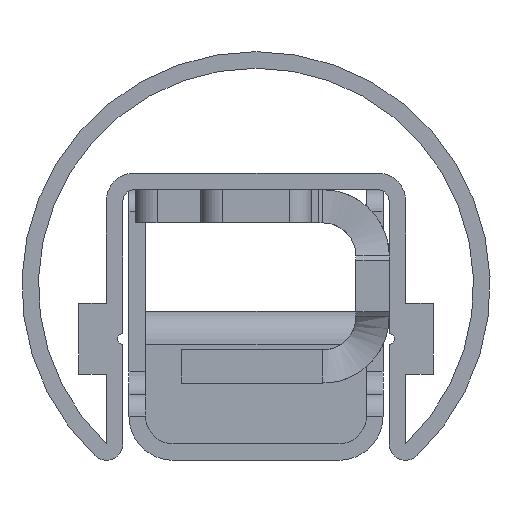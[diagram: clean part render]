
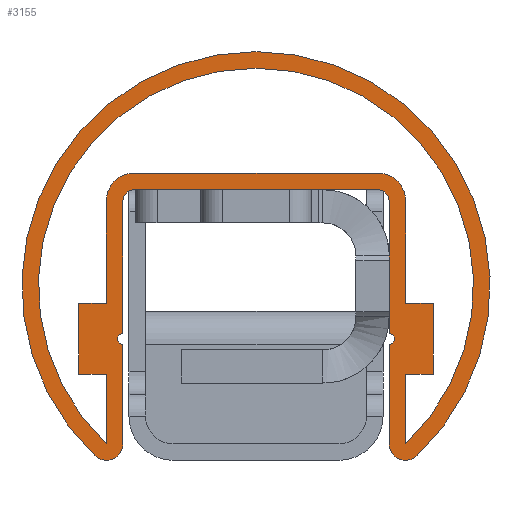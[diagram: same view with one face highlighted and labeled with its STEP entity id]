
A CAD part, front view. The second image highlights one B-rep face of the part: STEP entity #3155.
In plain terms, the highlighted planar face has unit normal (0, -1, 0).
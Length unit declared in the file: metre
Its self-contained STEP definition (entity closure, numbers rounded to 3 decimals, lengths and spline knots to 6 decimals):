
#116=PLANE('',#3397);
#258=LINE('',#5466,#560);
#262=LINE('',#5475,#564);
#265=LINE('',#5486,#567);
#268=LINE('',#5492,#570);
#275=LINE('',#5511,#577);
#277=LINE('',#5519,#579);
#280=LINE('',#5525,#582);
#288=LINE('',#5547,#590);
#292=LINE('',#5559,#594);
#296=LINE('',#5571,#598);
#297=LINE('',#5579,#599);
#298=LINE('',#5581,#600);
#299=LINE('',#5583,#601);
#300=LINE('',#5585,#602);
#301=LINE('',#5586,#603);
#302=LINE('',#5588,#604);
#560=VECTOR('',#3836,1.);
#564=VECTOR('',#3842,1.);
#567=VECTOR('',#3853,1.);
#570=VECTOR('',#3858,1.);
#577=VECTOR('',#3873,1.);
#579=VECTOR('',#3883,1.);
#582=VECTOR('',#3888,1.);
#590=VECTOR('',#3904,1.);
#594=VECTOR('',#3916,1.);
#598=VECTOR('',#3928,1.);
#599=VECTOR('',#3943,1.);
#600=VECTOR('',#3944,1.);
#601=VECTOR('',#3945,1.);
#602=VECTOR('',#3946,1.);
#603=VECTOR('',#3947,1.);
#604=VECTOR('',#3948,1.);
#1085=ORIENTED_EDGE('',*,*,#1867,.F.);
#1086=ORIENTED_EDGE('',*,*,#1812,.T.);
#1087=ORIENTED_EDGE('',*,*,#1864,.T.);
#1088=ORIENTED_EDGE('',*,*,#1862,.T.);
#1089=ORIENTED_EDGE('',*,*,#1868,.T.);
#1090=ORIENTED_EDGE('',*,*,#1869,.F.);
#1091=ORIENTED_EDGE('',*,*,#1870,.F.);
#1092=ORIENTED_EDGE('',*,*,#1816,.T.);
#1093=ORIENTED_EDGE('',*,*,#1858,.T.);
#1094=ORIENTED_EDGE('',*,*,#1856,.T.);
#1095=ORIENTED_EDGE('',*,*,#1853,.T.);
#1096=ORIENTED_EDGE('',*,*,#1850,.T.);
#1097=ORIENTED_EDGE('',*,*,#1871,.T.);
#1098=ORIENTED_EDGE('',*,*,#1872,.T.);
#1099=ORIENTED_EDGE('',*,*,#1840,.F.);
#1100=ORIENTED_EDGE('',*,*,#1873,.F.);
#1101=ORIENTED_EDGE('',*,*,#1837,.F.);
#1102=ORIENTED_EDGE('',*,*,#1836,.F.);
#1103=ORIENTED_EDGE('',*,*,#1833,.F.);
#1104=ORIENTED_EDGE('',*,*,#1830,.F.);
#1105=ORIENTED_EDGE('',*,*,#1824,.F.);
#1106=ORIENTED_EDGE('',*,*,#1874,.F.);
#1107=ORIENTED_EDGE('',*,*,#1821,.F.);
#1108=ORIENTED_EDGE('',*,*,#1820,.F.);
#1109=ORIENTED_EDGE('',*,*,#1866,.F.);
#1110=ORIENTED_EDGE('',*,*,#1846,.F.);
#1812=EDGE_CURVE('',#2224,#2226,#258,.T.);
#1816=EDGE_CURVE('',#2228,#2230,#262,.T.);
#1820=EDGE_CURVE('',#2234,#2231,#2478,.T.);
#1821=EDGE_CURVE('',#2231,#2235,#265,.T.);
#1824=EDGE_CURVE('',#2237,#2238,#268,.T.);
#1830=EDGE_CURVE('',#2238,#2241,#2480,.T.);
#1833=EDGE_CURVE('',#2241,#2243,#275,.T.);
#1836=EDGE_CURVE('',#2243,#2245,#2482,.T.);
#1837=EDGE_CURVE('',#2245,#2247,#277,.T.);
#1840=EDGE_CURVE('',#2249,#2250,#280,.T.);
#1846=EDGE_CURVE('',#2250,#2253,#2484,.T.);
#1850=EDGE_CURVE('',#2255,#2258,#288,.T.);
#1853=EDGE_CURVE('',#2259,#2255,#2486,.T.);
#1856=EDGE_CURVE('',#2261,#2259,#292,.T.);
#1858=EDGE_CURVE('',#2230,#2261,#2488,.T.);
#1862=EDGE_CURVE('',#2263,#2266,#296,.T.);
#1864=EDGE_CURVE('',#2226,#2263,#2490,.T.);
#1866=EDGE_CURVE('',#2253,#2234,#2492,.T.);
#1867=EDGE_CURVE('',#2224,#2267,#297,.T.);
#1868=EDGE_CURVE('',#2266,#2268,#298,.T.);
#1869=EDGE_CURVE('',#2269,#2268,#299,.T.);
#1870=EDGE_CURVE('',#2228,#2269,#300,.T.);
#1871=EDGE_CURVE('',#2258,#2270,#301,.T.);
#1872=EDGE_CURVE('',#2270,#2267,#302,.T.);
#1873=EDGE_CURVE('',#2247,#2249,#2493,.T.);
#1874=EDGE_CURVE('',#2235,#2237,#2494,.T.);
#2224=VERTEX_POINT('',#5461);
#2226=VERTEX_POINT('',#5465);
#2228=VERTEX_POINT('',#5470);
#2230=VERTEX_POINT('',#5474);
#2231=VERTEX_POINT('',#5478);
#2234=VERTEX_POINT('',#5483);
#2235=VERTEX_POINT('',#5487);
#2237=VERTEX_POINT('',#5493);
#2238=VERTEX_POINT('',#5494);
#2241=VERTEX_POINT('',#5502);
#2243=VERTEX_POINT('',#5508);
#2245=VERTEX_POINT('',#5514);
#2247=VERTEX_POINT('',#5520);
#2249=VERTEX_POINT('',#5526);
#2250=VERTEX_POINT('',#5527);
#2253=VERTEX_POINT('',#5535);
#2255=VERTEX_POINT('',#5541);
#2258=VERTEX_POINT('',#5546);
#2259=VERTEX_POINT('',#5550);
#2261=VERTEX_POINT('',#5556);
#2263=VERTEX_POINT('',#5565);
#2266=VERTEX_POINT('',#5570);
#2267=VERTEX_POINT('',#5580);
#2268=VERTEX_POINT('',#5582);
#2269=VERTEX_POINT('',#5584);
#2270=VERTEX_POINT('',#5587);
#2478=CIRCLE('',#3367,0.0015);
#2480=CIRCLE('',#3372,0.001);
#2482=CIRCLE('',#3376,0.001);
#2484=CIRCLE('',#3381,0.0015);
#2486=CIRCLE('',#3385,0.0025);
#2488=CIRCLE('',#3389,0.0025);
#2490=CIRCLE('',#3393,0.0197);
#2492=CIRCLE('',#3396,0.0212);
#2493=CIRCLE('',#3398,0.0005);
#2494=CIRCLE('',#3399,0.0005);
#2659=EDGE_LOOP('',(#1085,#1086,#1087,#1088,#1089,#1090,#1091,#1092,#1093,
#1094,#1095,#1096,#1097,#1098));
#2660=EDGE_LOOP('',(#1099,#1100,#1101,#1102,#1103,#1104,#1105,#1106,#1107,
#1108,#1109,#1110));
#2873=FACE_BOUND('',#2659,.T.);
#2874=FACE_BOUND('',#2660,.T.);
#3155=ADVANCED_FACE('',(#2873,#2874),#116,.F.);
#3367=AXIS2_PLACEMENT_3D('',#5484,#3849,#3850);
#3372=AXIS2_PLACEMENT_3D('',#5505,#3867,#3868);
#3376=AXIS2_PLACEMENT_3D('',#5517,#3879,#3880);
#3381=AXIS2_PLACEMENT_3D('',#5538,#3897,#3898);
#3385=AXIS2_PLACEMENT_3D('',#5553,#3910,#3911);
#3389=AXIS2_PLACEMENT_3D('',#5562,#3921,#3922);
#3393=AXIS2_PLACEMENT_3D('',#5574,#3933,#3934);
#3396=AXIS2_PLACEMENT_3D('',#5577,#3939,#3940);
#3397=AXIS2_PLACEMENT_3D('',#5578,#3941,#3942);
#3398=AXIS2_PLACEMENT_3D('',#5589,#3949,#3950);
#3399=AXIS2_PLACEMENT_3D('',#5590,#3951,#3952);
#3836=DIRECTION('',(0.,0.,1.));
#3842=DIRECTION('',(0.,0.,-1.));
#3849=DIRECTION('',(0.,1.,0.));
#3850=DIRECTION('',(-1.,0.,0.));
#3853=DIRECTION('',(0.,0.,-1.));
#3858=DIRECTION('',(0.,0.,-1.));
#3867=DIRECTION('',(0.,-1.,0.));
#3868=DIRECTION('',(1.,0.,0.));
#3873=DIRECTION('',(1.,0.,0.));
#3879=DIRECTION('',(0.,-1.,0.));
#3880=DIRECTION('',(-1.,0.,0.));
#3883=DIRECTION('',(0.,0.,1.));
#3888=DIRECTION('',(0.,0.,1.));
#3897=DIRECTION('',(0.,1.,0.));
#3898=DIRECTION('',(1.,0.,0.));
#3904=DIRECTION('',(0.,0.,1.));
#3910=DIRECTION('',(0.,-1.,0.));
#3911=DIRECTION('',(-1.,0.,0.));
#3916=DIRECTION('',(1.,0.,0.));
#3921=DIRECTION('',(0.,-1.,0.));
#3922=DIRECTION('',(1.,0.,0.));
#3928=DIRECTION('',(0.,0.,-1.));
#3933=DIRECTION('',(0.,1.,0.));
#3934=DIRECTION('',(0.,0.,1.));
#3939=DIRECTION('',(0.,1.,0.));
#3940=DIRECTION('',(0.,0.,1.));
#3941=DIRECTION('',(0.,1.,0.));
#3942=DIRECTION('',(1.,0.,0.));
#3943=DIRECTION('',(1.,0.,0.));
#3944=DIRECTION('',(-1.,0.,0.));
#3945=DIRECTION('',(0.,0.,1.));
#3946=DIRECTION('',(-1.,0.,0.));
#3947=DIRECTION('',(1.,0.,0.));
#3948=DIRECTION('',(0.,0.,1.));
#3949=DIRECTION('',(0.,-1.,0.));
#3950=DIRECTION('',(0.,0.,-1.));
#3951=DIRECTION('',(0.,-1.,0.));
#3952=DIRECTION('',(0.,0.,-1.));
#5461=CARTESIAN_POINT('',(0.01355,-0.05,0.008));
#5465=CARTESIAN_POINT('',(0.01355,-0.05,0.0143));
#5466=CARTESIAN_POINT('',(0.01355,-0.05,0.007962));
#5470=CARTESIAN_POINT('',(-0.01355,-0.05,0.0016));
#5474=CARTESIAN_POINT('',(-0.01355,-0.05,-0.0077));
#5475=CARTESIAN_POINT('',(-0.01355,-0.05,0.001638));
#5478=CARTESIAN_POINT('',(-0.01205,-0.05,0.0143));
#5483=CARTESIAN_POINT('',(-0.014582,-0.05,0.015389));
#5484=CARTESIAN_POINT('',(-0.01355,-0.05,0.0143));
#5486=CARTESIAN_POINT('',(-0.01205,-0.05,0.0143));
#5487=CARTESIAN_POINT('',(-0.01205,-0.05,0.0053));
#5492=CARTESIAN_POINT('',(-0.01205,-0.05,0.001971));
#5493=CARTESIAN_POINT('',(-0.01205,-0.05,0.0043));
#5494=CARTESIAN_POINT('',(-0.01205,-0.05,-0.0077));
#5502=CARTESIAN_POINT('',(-0.01105,-0.05,-0.0087));
#5505=CARTESIAN_POINT('',(-0.01105,-0.05,-0.0077));
#5508=CARTESIAN_POINT('',(0.01105,-0.05,-0.0087));
#5511=CARTESIAN_POINT('',(-0.01105,-0.05,-0.0087));
#5514=CARTESIAN_POINT('',(0.01205,-0.05,-0.0077));
#5517=CARTESIAN_POINT('',(0.01105,-0.05,-0.0077));
#5519=CARTESIAN_POINT('',(0.01205,-0.05,-0.0077));
#5520=CARTESIAN_POINT('',(0.01205,-0.05,0.0043));
#5525=CARTESIAN_POINT('',(0.01205,-0.05,0.007628));
#5526=CARTESIAN_POINT('',(0.01205,-0.05,0.0053));
#5527=CARTESIAN_POINT('',(0.01205,-0.05,0.0143));
#5535=CARTESIAN_POINT('',(0.014582,-0.05,0.015389));
#5538=CARTESIAN_POINT('',(0.01355,-0.05,0.0143));
#5541=CARTESIAN_POINT('',(0.01355,-0.05,-0.0077));
#5546=CARTESIAN_POINT('',(0.01355,-0.05,0.0016));
#5547=CARTESIAN_POINT('',(0.01355,-0.05,-0.0077));
#5550=CARTESIAN_POINT('',(0.01105,-0.05,-0.0102));
#5553=CARTESIAN_POINT('',(0.01105,-0.05,-0.0077));
#5556=CARTESIAN_POINT('',(-0.01105,-0.05,-0.0102));
#5559=CARTESIAN_POINT('',(-0.01105,-0.05,-0.0102));
#5562=CARTESIAN_POINT('',(-0.01105,-0.05,-0.0077));
#5565=CARTESIAN_POINT('',(-0.01355,-0.05,0.0143));
#5570=CARTESIAN_POINT('',(-0.01355,-0.05,0.008));
#5571=CARTESIAN_POINT('',(-0.01355,-0.05,0.0143));
#5574=CARTESIAN_POINT('',(0.,-0.05,0.));
#5577=CARTESIAN_POINT('',(0.,-0.05,0.));
#5578=CARTESIAN_POINT('',(-0.01355,-0.05,0.0143));
#5579=CARTESIAN_POINT('',(0.01405,-0.05,0.008));
#5580=CARTESIAN_POINT('',(0.01605,-0.05,0.008));
#5581=CARTESIAN_POINT('',(-0.01405,-0.05,0.008));
#5582=CARTESIAN_POINT('',(-0.01605,-0.05,0.008));
#5583=CARTESIAN_POINT('',(-0.01605,-0.05,0.0048));
#5584=CARTESIAN_POINT('',(-0.01605,-0.05,0.0016));
#5585=CARTESIAN_POINT('',(-0.01405,-0.05,0.0016));
#5586=CARTESIAN_POINT('',(0.01405,-0.05,0.0016));
#5587=CARTESIAN_POINT('',(0.01605,-0.05,0.0016));
#5588=CARTESIAN_POINT('',(0.01605,-0.05,0.0048));
#5589=CARTESIAN_POINT('',(0.01205,-0.05,0.0048));
#5590=CARTESIAN_POINT('',(-0.01205,-0.05,0.0048));
